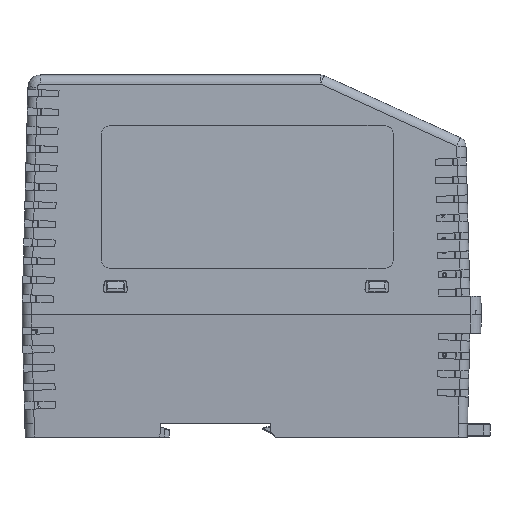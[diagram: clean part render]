
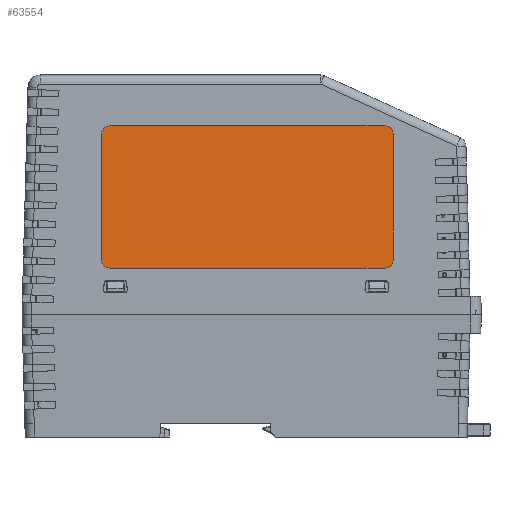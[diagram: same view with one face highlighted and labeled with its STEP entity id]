
A CAD part, left-side view. The second image highlights one B-rep face of the part: STEP entity #63554.
In plain terms, the highlighted planar face has unit normal (-1, 0, 0.026) as drawn and (1, 0, -0.026) by its records, which use the part's own axes.
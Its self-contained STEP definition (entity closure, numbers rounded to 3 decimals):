
#200 = CARTESIAN_POINT ( 'NONE',  ( 15.125, 43.532, 16.236 ) ) ;
#5548 = ORIENTED_EDGE ( 'NONE', *, *, #195493, .T. ) ;
#8279 = VERTEX_POINT ( 'NONE', #144808 ) ;
#8927 = DIRECTION ( 'NONE',  ( -0.026, 0., -1. ) ) ;
#9031 = CARTESIAN_POINT ( 'NONE',  ( 16.327, -44.268, 62.126 ) ) ;
#10137 = AXIS2_PLACEMENT_3D ( 'NONE', #197379, #198443, #18366 ) ;
#12947 = AXIS2_PLACEMENT_3D ( 'NONE', #26086, #57290, #8927 ) ;
#14068 = ORIENTED_EDGE ( 'NONE', *, *, #27173, .F. ) ;
#14893 = AXIS2_PLACEMENT_3D ( 'NONE', #130373, #17677, #165642 ) ;
#17677 = DIRECTION ( 'NONE',  ( 1., 0., -0.026 ) ) ;
#18366 = DIRECTION ( 'NONE',  ( -0.026, 0., -1. ) ) ;
#24382 = CARTESIAN_POINT ( 'NONE',  ( 16.249, 46.516, 59.142 ) ) ;
#26086 = CARTESIAN_POINT ( 'NONE',  ( 15.203, 43.532, 19.219 ) ) ;
#27173 = EDGE_CURVE ( 'NONE', #150036, #8279, #187282, .T. ) ;
#27211 = CARTESIAN_POINT ( 'NONE',  ( 16.249, 46.516, 59.142 ) ) ;
#34544 = CARTESIAN_POINT ( 'NONE',  ( 15.125, 43.532, 16.236 ) ) ;
#44837 = AXIS2_PLACEMENT_3D ( 'NONE', #157456, #205639, #126401 ) ;
#45298 = ORIENTED_EDGE ( 'NONE', *, *, #206356, .F. ) ;
#46472 = ORIENTED_EDGE ( 'NONE', *, *, #149313, .T. ) ;
#47004 = CARTESIAN_POINT ( 'NONE',  ( 15.203, -47.252, 19.219 ) ) ;
#48203 = CIRCLE ( 'NONE', #44837, 2.984 ) ;
#54687 = DIRECTION ( 'NONE',  ( 1., 0., -0.026 ) ) ;
#56201 = CIRCLE ( 'NONE', #14893, 2.984 ) ;
#57290 = DIRECTION ( 'NONE',  ( -1., 0., 0.026 ) ) ;
#63554 = ADVANCED_FACE ( 'NONE', ( #132113 ), #119209, .T. ) ;
#65474 = VERTEX_POINT ( 'NONE', #125939 ) ;
#71204 = CIRCLE ( 'NONE', #12947, 2.984 ) ;
#71344 = CARTESIAN_POINT ( 'NONE',  ( 16.249, -47.252, 59.142 ) ) ;
#76034 = VERTEX_POINT ( 'NONE', #34544 ) ;
#79289 = VERTEX_POINT ( 'NONE', #9031 ) ;
#79951 = EDGE_LOOP ( 'NONE', ( #128395, #90902, #175356, #46472, #5548, #45298, #160352, #14068 ) ) ;
#83259 = AXIS2_PLACEMENT_3D ( 'NONE', #107144, #54687, #185306 ) ;
#89371 = CARTESIAN_POINT ( 'NONE',  ( 15.125, -44.268, 16.236 ) ) ;
#90902 = ORIENTED_EDGE ( 'NONE', *, *, #115299, .T. ) ;
#93487 = CIRCLE ( 'NONE', #83259, 2.984 ) ;
#96680 = DIRECTION ( 'NONE',  ( -0.026, 0., -1. ) ) ;
#97708 = EDGE_CURVE ( 'NONE', #150036, #65474, #56201, .T. ) ;
#100262 = CARTESIAN_POINT ( 'NONE',  ( 16.327, 43.532, 62.126 ) ) ;
#106427 = VERTEX_POINT ( 'NONE', #71344 ) ;
#107144 = CARTESIAN_POINT ( 'NONE',  ( 15.203, -44.268, 19.219 ) ) ;
#109620 = VECTOR ( 'NONE', #171262, 1000. ) ;
#110762 = VERTEX_POINT ( 'NONE', #47004 ) ;
#115286 = LINE ( 'NONE', #100262, #205738 ) ;
#115299 = EDGE_CURVE ( 'NONE', #65474, #79289, #115286, .T. ) ;
#116964 = LINE ( 'NONE', #118036, #144917 ) ;
#117062 = VERTEX_POINT ( 'NONE', #89371 ) ;
#118036 = CARTESIAN_POINT ( 'NONE',  ( 16.249, -47.252, 59.142 ) ) ;
#118755 = VECTOR ( 'NONE', #180266, 1000. ) ;
#119209 = PLANE ( 'NONE',  #10137 ) ;
#125939 = CARTESIAN_POINT ( 'NONE',  ( 16.327, 43.532, 62.126 ) ) ;
#126401 = DIRECTION ( 'NONE',  ( -0.026, 0., -1. ) ) ;
#128395 = ORIENTED_EDGE ( 'NONE', *, *, #97708, .T. ) ;
#130373 = CARTESIAN_POINT ( 'NONE',  ( 16.249, 43.532, 59.142 ) ) ;
#132113 = FACE_OUTER_BOUND ( 'NONE', #79951, .T. ) ;
#136652 = DIRECTION ( 'NONE',  ( 0., -1., 0. ) ) ;
#144808 = CARTESIAN_POINT ( 'NONE',  ( 15.203, 46.516, 19.219 ) ) ;
#144917 = VECTOR ( 'NONE', #96680, 1000. ) ;
#146259 = EDGE_CURVE ( 'NONE', #8279, #76034, #71204, .T. ) ;
#149313 = EDGE_CURVE ( 'NONE', #106427, #110762, #116964, .T. ) ;
#150036 = VERTEX_POINT ( 'NONE', #27211 ) ;
#157456 = CARTESIAN_POINT ( 'NONE',  ( 16.249, -44.268, 59.142 ) ) ;
#160352 = ORIENTED_EDGE ( 'NONE', *, *, #146259, .F. ) ;
#163143 = LINE ( 'NONE', #200, #118755 ) ;
#165642 = DIRECTION ( 'NONE',  ( -0.026, 0., -1. ) ) ;
#171262 = DIRECTION ( 'NONE',  ( -0.026, 0., -1. ) ) ;
#175356 = ORIENTED_EDGE ( 'NONE', *, *, #209553, .T. ) ;
#180266 = DIRECTION ( 'NONE',  ( 0., -1., 0. ) ) ;
#185306 = DIRECTION ( 'NONE',  ( -0.026, 0., -1. ) ) ;
#187282 = LINE ( 'NONE', #24382, #109620 ) ;
#195493 = EDGE_CURVE ( 'NONE', #110762, #117062, #93487, .T. ) ;
#197379 = CARTESIAN_POINT ( 'NONE',  ( 16.249, 43.532, 59.142 ) ) ;
#198443 = DIRECTION ( 'NONE',  ( 1., 0., -0.026 ) ) ;
#205639 = DIRECTION ( 'NONE',  ( 1., 0., -0.026 ) ) ;
#205738 = VECTOR ( 'NONE', #136652, 1000. ) ;
#206356 = EDGE_CURVE ( 'NONE', #76034, #117062, #163143, .T. ) ;
#209553 = EDGE_CURVE ( 'NONE', #79289, #106427, #48203, .T. ) ;
